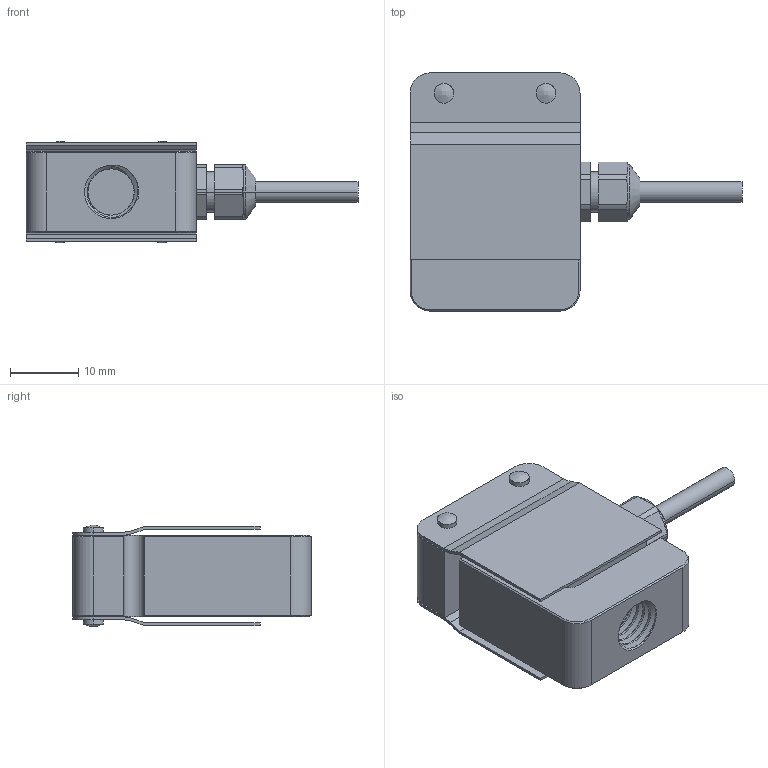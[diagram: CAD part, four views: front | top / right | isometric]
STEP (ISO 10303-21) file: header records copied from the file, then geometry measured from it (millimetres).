
FILE_DESCRIPTION (( 'STEP AP203' ), '1' );
FILE_NAME ('LCS06.STEP', '2024-11-28T08:19:53', ( '' ), ( '' ), 'SwSTEP 2.0', 'SolidWorks 2019', '' );
FILE_SCHEMA (( 'CONFIG_CONTROL_DESIGN' ));
Length unit declared in the file: millimetre
Products named in the file (1): LCS06
Bounding box: 48.8 x 35 x 14.9 mm (x, y, z)
Volume: 9403.6 mm3; surface area: 6705.3 mm2
Topology: 1 solids, 1 shells, 183 faces, 474 edges, 303 vertices
Faces by surface type: plane 76, cylinder 73, cone 16, bspline 10, torus 8
Entity records: 10118 total; most frequent: CARTESIAN_POINT 5713, ORIENTED_EDGE 948, DIRECTION 857, EDGE_CURVE 474, VERTEX_POINT 303, AXIS2_PLACEMENT_3D 293, VECTOR 271, LINE 271
